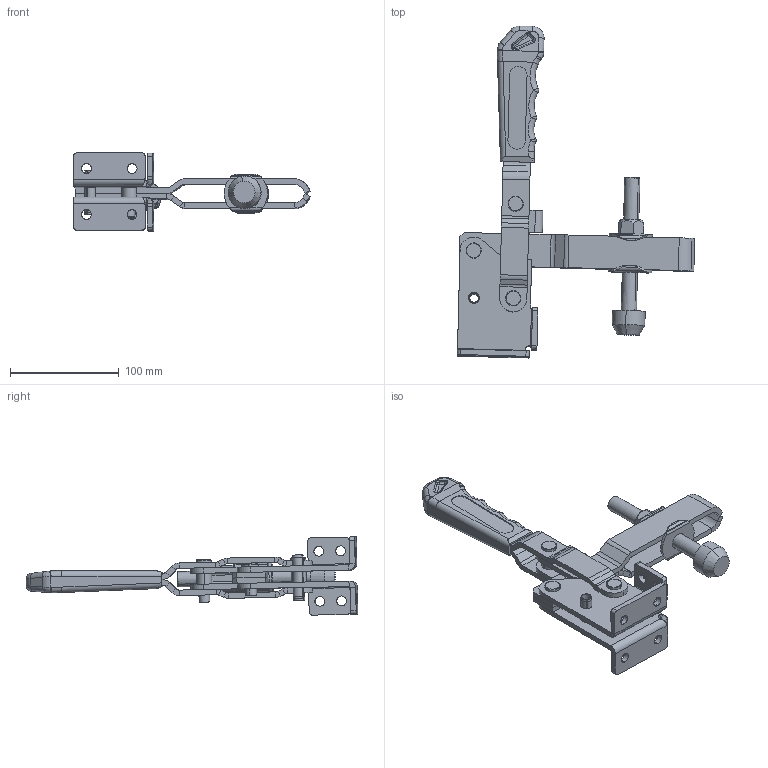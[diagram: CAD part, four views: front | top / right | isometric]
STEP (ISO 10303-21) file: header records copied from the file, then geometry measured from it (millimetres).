
FILE_DESCRIPTION (( 'STEP AP214' ), '1' );
FILE_NAME ('204_YLU.STEP', '2024-09-09T16:34:48', ( '' ), ( '' ), 'SwSTEP 2.0', 'SolidWorks 2023', '' );
FILE_SCHEMA (( 'AUTOMOTIVE_DESIGN' ));
Length unit declared in the file: millimetre
Products named in the file (17): FZK_204_B_02_00; TTMK_05_00; 204_YLU; FZK_204_B_06_00; FZK_204_YL_02_00; FZK_204_B_07_00; FZK_204_BLU_01_00; FZK_204_B_04_00; FZK_204_B_05A_00; M14X130 A.K.B CİVATA; M14 PABUC; prevailing torque nut style 1_DIN_DIN EN ISO 4032 - M14 - C; M14 PUL; FZK_204_B_05_00; spring pin slotted_hd_din_Spring Pin ISO 8752 - 10 x 50 - St_1; FZK_204_YL_01_00; FZK_204_BLU_02_00
Assembly tree (21 placements, depth 3):
  204_YLU
    FZK_204_B_02_00  x2
    FZK_204_B_04_00
    FZK_204_B_05_00
      FZK_204_B_05A_00  x2
    FZK_204_B_06_00  x2
    FZK_204_B_07_00  x2
    TTMK_05_00
    spring pin slotted_hd_din_Spring Pin ISO 8752 - 10 x 50 - St_1
    FZK_204_BLU_01_00
    FZK_204_BLU_02_00
    M14X130 A.K.B CİVATA
    M14 PABUC
    M14 PUL  x2
    FZK_204_YL_01_00
    FZK_204_YL_02_00
    prevailing torque nut style 1_DIN_DIN EN ISO 4032 - M14 - C
Bounding box: 218.05 x 304.95 x 71.85 mm (x, y, z)
Volume: 361923.3 mm3; surface area: 176209 mm2
Topology: 21 solids, 21 shells, 693 faces, 1583 edges, 932 vertices
Faces by surface type: cylinder 290, plane 289, bspline 69, cone 45
Entity records: 19632 total; most frequent: CARTESIAN_POINT 6411, DIRECTION 2678, ORIENTED_EDGE 2606, EDGE_CURVE 1303, AXIS2_PLACEMENT_3D 1006, VERTEX_POINT 784, VECTOR 666, LINE 666
